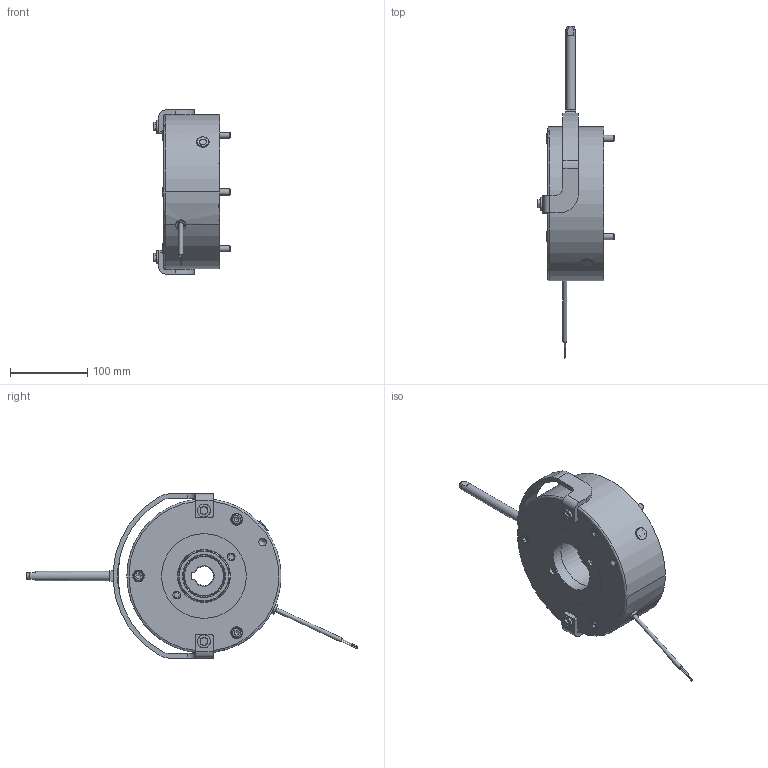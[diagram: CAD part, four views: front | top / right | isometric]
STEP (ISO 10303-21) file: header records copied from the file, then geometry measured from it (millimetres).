
FILE_DESCRIPTION(/* description */ (''),/* implementation_level */ '2;1');
FILE_NAME(/* name */ 'C:\SapWorkDir\Inventor\IP1\ConvertTempPath\5028808_IPT_000.ipt.stp',/* time_stamp */ '2020-09-18T13:30:42+02:00',/* author */ ('STRATE'),/* organization */ (''),/* preprocessor_version */ 'ST-DEVELOPER v17',/* originating_system */ 'Autodesk Inventor 2018',/* authorisation */ '');
FILE_SCHEMA (('AUTOMOTIVE_DESIGN { 1 0 10303 214 3 1 1 }'));
Length unit declared in the file: millimetre
Products named in the file (1): 5028808
Bounding box: 100 x 430.97 x 213 mm (x, y, z)
Volume: 1997311.8 mm3; surface area: 280267.9 mm2
Topology: 3 solids, 3 shells, 651 faces, 1747 edges, 1173 vertices
Faces by surface type: cylinder 316, plane 192, cone 120, torus 23
Full cylindrical faces by diameter (mm): 0.01 x1, 1 x2, 1.85 x2, 5 x1, 5.3 x1, 6 x2, 6.4 x4, 7 x1, 7.2 x2, 7.3 x2, 7.6 x1, 8 x8, 8.2 x3, 8.3 x2, 8.5 x1, 8.6 x3, 8.9 x2, 9.8 x2, 10 x6, 10.106 x2, 11 x2, 12 x1, 13 x5, 13.2 x1, 13.9 x3, 15 x3, 16 x1, 17 x4, 68 x1, 70 x1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
Entity records: 22385 total; most frequent: CARTESIAN_POINT 5004, DIRECTION 3571, ORIENTED_EDGE 3494, EDGE_CURVE 1747, AXIS2_PLACEMENT_3D 1485, VERTEX_POINT 1173, CIRCLE 833, EDGE_LOOP 760
